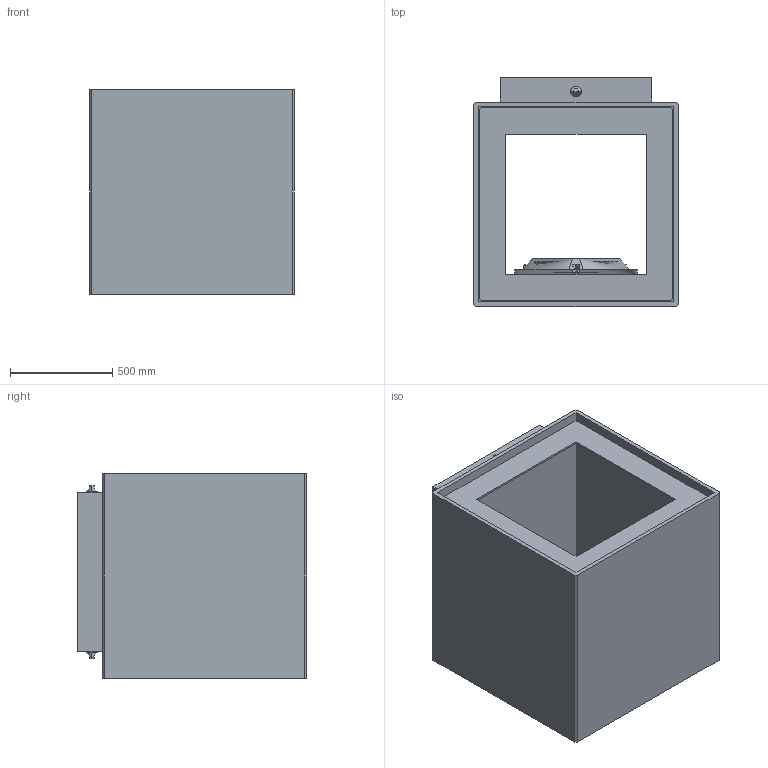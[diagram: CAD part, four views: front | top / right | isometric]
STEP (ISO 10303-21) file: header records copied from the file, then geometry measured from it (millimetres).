
FILE_DESCRIPTION(/* description */ (''),/* implementation_level */ '2;1');
FILE_NAME(/* name */ '4561',/* time_stamp */ '2022-01-27T17:09:18+01:00',/* author */ (''),/* organization */ (''),/* preprocessor_version */ 'ST-DEVELOPER v16.5',/* originating_system */ '',/* authorisation */ '');
FILE_SCHEMA (('CONFIG_CONTROL_DESIGN'));
Length unit declared in the file: centimetre
Products named in the file (1): Document
Bounding box: 1000 x 1121.31 x 1000 mm (x, y, z)
Volume: 199276977 mm3; surface area: 20825062 mm2
Topology: 35 solids, 35 shells, 677 faces, 1754 edges, 1154 vertices
Faces by surface type: plane 416, cylinder 212, bspline 49
Full cylindrical faces by diameter (mm): 70 x1
Entity records: 20296 total; most frequent: CARTESIAN_POINT 8439, ORIENTED_EDGE 3492, EDGE_CURVE 1746, B_SPLINE_CURVE_WITH_KNOTS 1281, VERTEX_POINT 1151, EDGE_LOOP 721, ADVANCED_FACE 677, FACE_OUTER_BOUND 677
